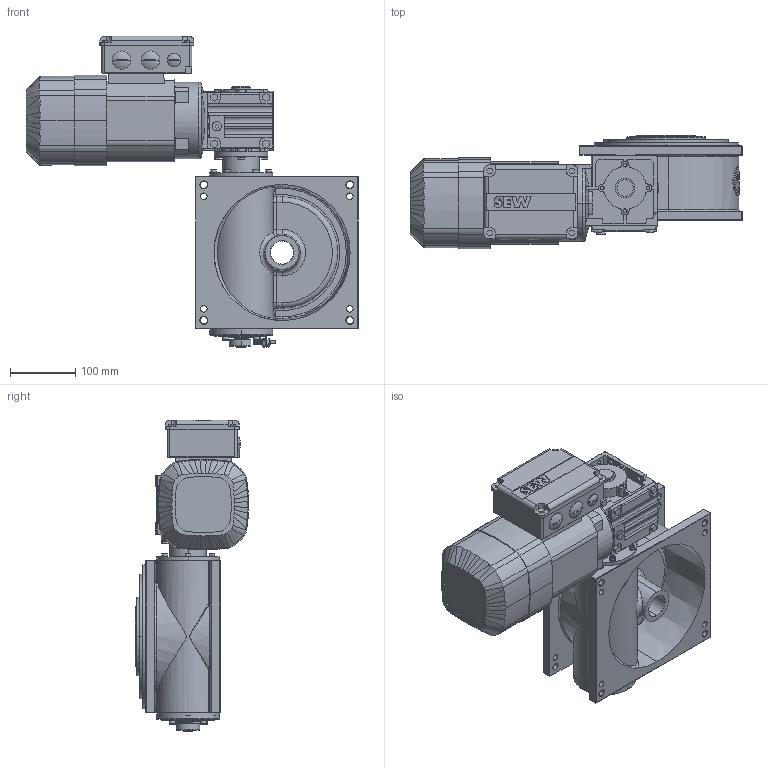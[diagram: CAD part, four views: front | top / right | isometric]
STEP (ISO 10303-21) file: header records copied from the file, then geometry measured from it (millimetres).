
FILE_DESCRIPTION (( 'STEP AP214' ), '1' );
FILE_NAME ('M190_SEW_WA20DRS71S4BE05_D3.STEP', '2021-01-25T15:04:12', ( '' ), ( '' ), 'SwSTEP 2.0', 'SolidWorks 2020', '' );
FILE_SCHEMA (( 'AUTOMOTIVE_DESIGN' ));
Length unit declared in the file: millimetre
Products named in the file (1): M190_SEW_WA20DRS71S4BE05_D3
Bounding box: 507 x 173.1 x 476.05 mm (x, y, z)
Surface area: 639715.7 mm2 (no closed solid volume)
Topology: 0 solids, 57 shells, 1426 faces, 4315 edges, 2859 vertices
Faces by surface type: plane 542, cylinder 538, cone 141, bspline 119, torus 68, sphere 18
Entity records: 77012 total; most frequent: CARTESIAN_POINT 23328, DIRECTION 7996, ORIENTED_EDGE 7514, EDGE_CURVE 4289, AXIS2_PLACEMENT_3D 2933, VERTEX_POINT 2859, LINE 2130, VECTOR 2130
